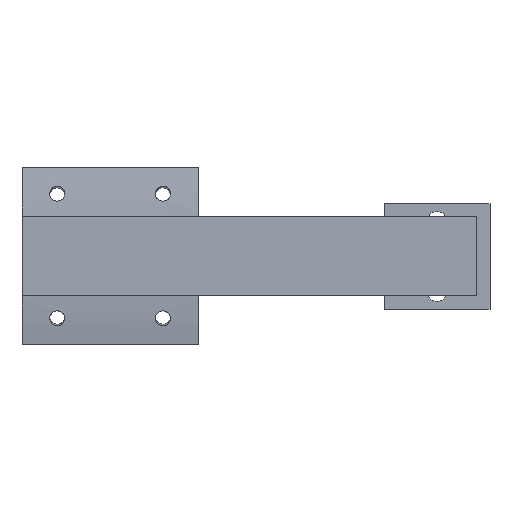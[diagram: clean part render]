
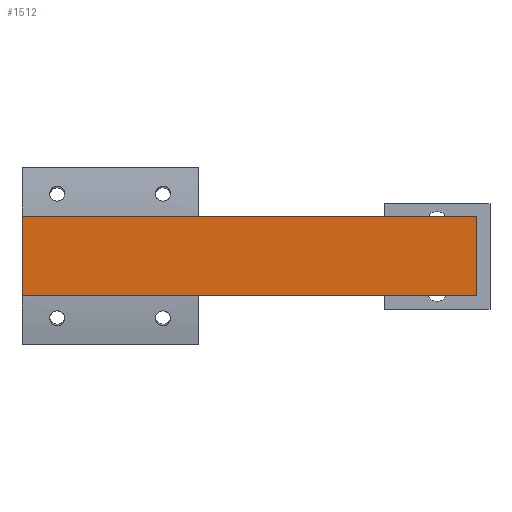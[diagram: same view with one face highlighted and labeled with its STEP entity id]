
A CAD part, top view. The second image highlights one B-rep face of the part: STEP entity #1512.
In plain terms, the highlighted planar face has unit normal (0, 0, 1).
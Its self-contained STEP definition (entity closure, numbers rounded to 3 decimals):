
#45 = PLANE('',#46);
#46 = AXIS2_PLACEMENT_3D('',#47,#48,#49);
#47 = CARTESIAN_POINT('',(-18.,0.,113.837));
#48 = DIRECTION('',(1.,0.,0.));
#49 = DIRECTION('',(0.,0.,1.));
#533 = VERTEX_POINT('',#534);
#534 = CARTESIAN_POINT('',(-18.,9.,122.));
#548 = PLANE('',#549);
#549 = AXIS2_PLACEMENT_3D('',#550,#551,#552);
#550 = CARTESIAN_POINT('',(-18.,9.,116.));
#551 = DIRECTION('',(0.,1.,0.));
#552 = DIRECTION('',(0.,0.,1.));
#560 = EDGE_CURVE('',#561,#533,#563,.T.);
#561 = VERTEX_POINT('',#562);
#562 = CARTESIAN_POINT('',(-18.,-9.,122.));
#563 = SURFACE_CURVE('',#564,(#568,#575),.PCURVE_S1.);
#564 = LINE('',#565,#566);
#565 = CARTESIAN_POINT('',(-18.,-9.,122.));
#566 = VECTOR('',#567,1.);
#567 = DIRECTION('',(0.,1.,0.));
#568 = PCURVE('',#45,#569);
#569 = DEFINITIONAL_REPRESENTATION('',(#570),#574);
#570 = LINE('',#571,#572);
#571 = CARTESIAN_POINT('',(8.163,9.));
#572 = VECTOR('',#573,1.);
#573 = DIRECTION('',(0.,-1.));
#574 = ( GEOMETRIC_REPRESENTATION_CONTEXT(2) 
PARAMETRIC_REPRESENTATION_CONTEXT() REPRESENTATION_CONTEXT('2D SPACE',''
  ) );
#575 = PCURVE('',#576,#581);
#576 = PLANE('',#577);
#577 = AXIS2_PLACEMENT_3D('',#578,#579,#580);
#578 = CARTESIAN_POINT('',(-18.,-9.,122.));
#579 = DIRECTION('',(0.,0.,1.));
#580 = DIRECTION('',(1.,0.,0.));
#581 = DEFINITIONAL_REPRESENTATION('',(#582),#586);
#582 = LINE('',#583,#584);
#583 = CARTESIAN_POINT('',(0.,0.));
#584 = VECTOR('',#585,1.);
#585 = DIRECTION('',(0.,1.));
#586 = ( GEOMETRIC_REPRESENTATION_CONTEXT(2) 
PARAMETRIC_REPRESENTATION_CONTEXT() REPRESENTATION_CONTEXT('2D SPACE',''
  ) );
#604 = PLANE('',#605);
#605 = AXIS2_PLACEMENT_3D('',#606,#607,#608);
#606 = CARTESIAN_POINT('',(-18.,-9.,116.));
#607 = DIRECTION('',(0.,1.,0.));
#608 = DIRECTION('',(0.,0.,1.));
#819 = PLANE('',#820);
#820 = AXIS2_PLACEMENT_3D('',#821,#822,#823);
#821 = CARTESIAN_POINT('',(85.2,-9.,116.));
#822 = DIRECTION('',(1.,0.,0.));
#823 = DIRECTION('',(0.,0.,1.));
#1469 = EDGE_CURVE('',#533,#1470,#1472,.T.);
#1470 = VERTEX_POINT('',#1471);
#1471 = CARTESIAN_POINT('',(85.2,9.,122.));
#1472 = SURFACE_CURVE('',#1473,(#1477,#1484),.PCURVE_S1.);
#1473 = LINE('',#1474,#1475);
#1474 = CARTESIAN_POINT('',(-18.,9.,122.));
#1475 = VECTOR('',#1476,1.);
#1476 = DIRECTION('',(1.,0.,0.));
#1477 = PCURVE('',#548,#1478);
#1478 = DEFINITIONAL_REPRESENTATION('',(#1479),#1483);
#1479 = LINE('',#1480,#1481);
#1480 = CARTESIAN_POINT('',(6.,0.));
#1481 = VECTOR('',#1482,1.);
#1482 = DIRECTION('',(0.,1.));
#1483 = ( GEOMETRIC_REPRESENTATION_CONTEXT(2) 
PARAMETRIC_REPRESENTATION_CONTEXT() REPRESENTATION_CONTEXT('2D SPACE',''
  ) );
#1484 = PCURVE('',#576,#1485);
#1485 = DEFINITIONAL_REPRESENTATION('',(#1486),#1490);
#1486 = LINE('',#1487,#1488);
#1487 = CARTESIAN_POINT('',(0.,18.));
#1488 = VECTOR('',#1489,1.);
#1489 = DIRECTION('',(1.,0.));
#1490 = ( GEOMETRIC_REPRESENTATION_CONTEXT(2) 
PARAMETRIC_REPRESENTATION_CONTEXT() REPRESENTATION_CONTEXT('2D SPACE',''
  ) );
#1512 = ADVANCED_FACE('',(#1513),#576,.T.);
#1513 = FACE_BOUND('',#1514,.T.);
#1514 = EDGE_LOOP('',(#1515,#1516,#1517,#1540));
#1515 = ORIENTED_EDGE('',*,*,#1469,.F.);
#1516 = ORIENTED_EDGE('',*,*,#560,.F.);
#1517 = ORIENTED_EDGE('',*,*,#1518,.T.);
#1518 = EDGE_CURVE('',#561,#1519,#1521,.T.);
#1519 = VERTEX_POINT('',#1520);
#1520 = CARTESIAN_POINT('',(85.2,-9.,122.));
#1521 = SURFACE_CURVE('',#1522,(#1526,#1533),.PCURVE_S1.);
#1522 = LINE('',#1523,#1524);
#1523 = CARTESIAN_POINT('',(-18.,-9.,122.));
#1524 = VECTOR('',#1525,1.);
#1525 = DIRECTION('',(1.,0.,0.));
#1526 = PCURVE('',#576,#1527);
#1527 = DEFINITIONAL_REPRESENTATION('',(#1528),#1532);
#1528 = LINE('',#1529,#1530);
#1529 = CARTESIAN_POINT('',(0.,0.));
#1530 = VECTOR('',#1531,1.);
#1531 = DIRECTION('',(1.,0.));
#1532 = ( GEOMETRIC_REPRESENTATION_CONTEXT(2) 
PARAMETRIC_REPRESENTATION_CONTEXT() REPRESENTATION_CONTEXT('2D SPACE',''
  ) );
#1533 = PCURVE('',#604,#1534);
#1534 = DEFINITIONAL_REPRESENTATION('',(#1535),#1539);
#1535 = LINE('',#1536,#1537);
#1536 = CARTESIAN_POINT('',(6.,0.));
#1537 = VECTOR('',#1538,1.);
#1538 = DIRECTION('',(0.,1.));
#1539 = ( GEOMETRIC_REPRESENTATION_CONTEXT(2) 
PARAMETRIC_REPRESENTATION_CONTEXT() REPRESENTATION_CONTEXT('2D SPACE',''
  ) );
#1540 = ORIENTED_EDGE('',*,*,#1541,.T.);
#1541 = EDGE_CURVE('',#1519,#1470,#1542,.T.);
#1542 = SURFACE_CURVE('',#1543,(#1547,#1554),.PCURVE_S1.);
#1543 = LINE('',#1544,#1545);
#1544 = CARTESIAN_POINT('',(85.2,-9.,122.));
#1545 = VECTOR('',#1546,1.);
#1546 = DIRECTION('',(0.,1.,0.));
#1547 = PCURVE('',#576,#1548);
#1548 = DEFINITIONAL_REPRESENTATION('',(#1549),#1553);
#1549 = LINE('',#1550,#1551);
#1550 = CARTESIAN_POINT('',(103.2,0.));
#1551 = VECTOR('',#1552,1.);
#1552 = DIRECTION('',(0.,1.));
#1553 = ( GEOMETRIC_REPRESENTATION_CONTEXT(2) 
PARAMETRIC_REPRESENTATION_CONTEXT() REPRESENTATION_CONTEXT('2D SPACE',''
  ) );
#1554 = PCURVE('',#819,#1555);
#1555 = DEFINITIONAL_REPRESENTATION('',(#1556),#1560);
#1556 = LINE('',#1557,#1558);
#1557 = CARTESIAN_POINT('',(6.,0.));
#1558 = VECTOR('',#1559,1.);
#1559 = DIRECTION('',(0.,-1.));
#1560 = ( GEOMETRIC_REPRESENTATION_CONTEXT(2) 
PARAMETRIC_REPRESENTATION_CONTEXT() REPRESENTATION_CONTEXT('2D SPACE',''
  ) );
